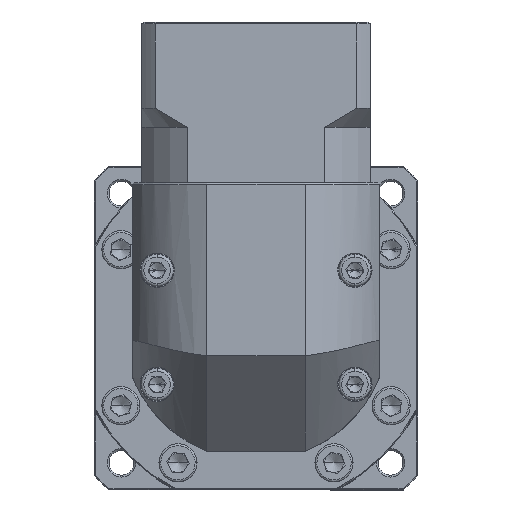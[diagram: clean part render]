
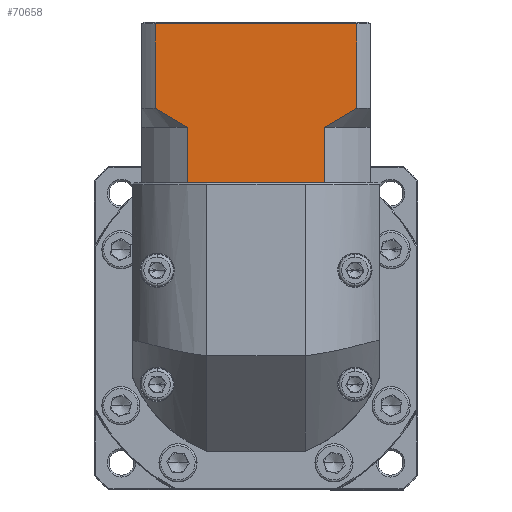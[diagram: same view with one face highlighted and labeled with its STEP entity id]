
A CAD part, top view. The second image highlights one B-rep face of the part: STEP entity #70658.
In plain terms, the highlighted planar face has unit normal (0, 0, 1).
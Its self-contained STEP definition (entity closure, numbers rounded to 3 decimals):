
#2688 = VECTOR ( 'NONE', #62153, 1000. ) ;
#3254 = LINE ( 'NONE', #114574, #130858 ) ;
#3812 = VECTOR ( 'NONE', #94292, 1000. ) ;
#4594 = CARTESIAN_POINT ( 'NONE',  ( -60.089, 73.84, 48.506 ) ) ;
#5754 = VERTEX_POINT ( 'NONE', #60088 ) ;
#9593 = ORIENTED_EDGE ( 'NONE', *, *, #86191, .T. ) ;
#12360 = ORIENTED_EDGE ( 'NONE', *, *, #114933, .T. ) ;
#12599 = EDGE_CURVE ( 'NONE', #123259, #54465, #31920, .T. ) ;
#17896 = VECTOR ( 'NONE', #46583, 1000. ) ;
#21271 = DIRECTION ( 'NONE',  ( 0., 0., -1. ) ) ;
#21354 = LINE ( 'NONE', #32366, #27933 ) ;
#23430 = FACE_OUTER_BOUND ( 'NONE', #88640, .T. ) ;
#25725 = CARTESIAN_POINT ( 'NONE',  ( -115.183, 55.241, 48.506 ) ) ;
#27933 = VECTOR ( 'NONE', #52752, 1000. ) ;
#30408 = CARTESIAN_POINT ( 'NONE',  ( -67.156, 69.741, 48.506 ) ) ;
#30864 = ORIENTED_EDGE ( 'NONE', *, *, #41096, .T. ) ;
#31920 = LINE ( 'NONE', #70703, #3812 ) ;
#32366 = CARTESIAN_POINT ( 'NONE',  ( -115.183, 55.241, 48.506 ) ) ;
#33297 = CARTESIAN_POINT ( 'NONE',  ( -103.211, 69.741, 48.506 ) ) ;
#35352 = EDGE_CURVE ( 'NONE', #48745, #123181, #79871, .T. ) ;
#35568 = CARTESIAN_POINT ( 'NONE',  ( -64.274, 71.292, 48.506 ) ) ;
#39546 = VERTEX_POINT ( 'NONE', #46008 ) ;
#41096 = EDGE_CURVE ( 'NONE', #39546, #116679, #113820, .T. ) ;
#41277 = CARTESIAN_POINT ( 'NONE',  ( -115.183, 96.941, 48.506 ) ) ;
#42198 = VERTEX_POINT ( 'NONE', #44710 ) ;
#44710 = CARTESIAN_POINT ( 'NONE',  ( -68.147, 55.241, 48.506 ) ) ;
#45813 = VERTEX_POINT ( 'NONE', #114262 ) ;
#46008 = CARTESIAN_POINT ( 'NONE',  ( -58.726, 96.941, 48.506 ) ) ;
#46583 = DIRECTION ( 'NONE',  ( 1., 0., 0. ) ) ;
#47119 = DIRECTION ( 'NONE',  ( 0., -1., 0. ) ) ;
#48745 = VERTEX_POINT ( 'NONE', #30408 ) ;
#48971 = ORIENTED_EDGE ( 'NONE', *, *, #105021, .T. ) ;
#50988 = VECTOR ( 'NONE', #72319, 1000. ) ;
#52752 = DIRECTION ( 'NONE',  ( 1., 0., 0. ) ) ;
#54465 = VERTEX_POINT ( 'NONE', #88606 ) ;
#54548 = DIRECTION ( 'NONE',  ( 0., 1., 0. ) ) ;
#55004 = PLANE ( 'NONE',  #74904 ) ;
#56707 = VECTOR ( 'NONE', #131931, 1000. ) ;
#59438 = ORIENTED_EDGE ( 'NONE', *, *, #35352, .T. ) ;
#59503 = B_SPLINE_CURVE_WITH_KNOTS ( 'NONE', 3,
 ( #126077, #126519, #96799, #107902, #119023, #33297 ),
 .UNSPECIFIED., .F., .F.,
 ( 4, 2, 4 ),
 ( 0.052, 0.057, 0.062 ),
 .UNSPECIFIED. ) ;
#60088 = CARTESIAN_POINT ( 'NONE',  ( -67.156, 55.241, 48.506 ) ) ;
#62153 = DIRECTION ( 'NONE',  ( -1., 0., 0. ) ) ;
#62502 = CARTESIAN_POINT ( 'NONE',  ( -111.641, 96.941, 48.506 ) ) ;
#64519 = EDGE_CURVE ( 'NONE', #48745, #5754, #104897, .T. ) ;
#67536 = ORIENTED_EDGE ( 'NONE', *, *, #103717, .T. ) ;
#70658 = ADVANCED_FACE ( 'NONE', ( #23430 ), #55004, .F. ) ;
#70703 = CARTESIAN_POINT ( 'NONE',  ( -103.211, 69.741, 48.506 ) ) ;
#72319 = DIRECTION ( 'NONE',  ( 1., 0., 0. ) ) ;
#74904 = AXIS2_PLACEMENT_3D ( 'NONE', #107399, #21271, #54548 ) ;
#78614 = CARTESIAN_POINT ( 'NONE',  ( -61.469, 72.966, 48.506 ) ) ;
#79104 = LINE ( 'NONE', #135840, #50988 ) ;
#79871 = B_SPLINE_CURVE_WITH_KNOTS ( 'NONE', 3,
 ( #119922, #88405, #35568, #78614, #4594, #90684 ),
 .UNSPECIFIED., .F., .F.,
 ( 4, 2, 4 ),
 ( 0.1, 0.104, 0.109 ),
 .UNSPECIFIED. ) ;
#85763 = VECTOR ( 'NONE', #47119, 1000. ) ;
#86191 = EDGE_CURVE ( 'NONE', #45813, #54465, #59503, .T. ) ;
#88405 = CARTESIAN_POINT ( 'NONE',  ( -65.699, 70.491, 48.506 ) ) ;
#88606 = CARTESIAN_POINT ( 'NONE',  ( -103.211, 69.741, 48.506 ) ) ;
#88640 = EDGE_LOOP ( 'NONE', ( #119451, #30864, #101551, #9593, #124314, #67536, #48971, #12360, #124444, #59438 ) ) ;
#89321 = CARTESIAN_POINT ( 'NONE',  ( -58.726, 69.741, 48.506 ) ) ;
#90684 = CARTESIAN_POINT ( 'NONE',  ( -58.726, 74.741, 48.506 ) ) ;
#92258 = EDGE_CURVE ( 'NONE', #39546, #123181, #118835, .T. ) ;
#94292 = DIRECTION ( 'NONE',  ( 0., 1., 0. ) ) ;
#96799 = CARTESIAN_POINT ( 'NONE',  ( -108.902, 72.968, 48.506 ) ) ;
#101551 = ORIENTED_EDGE ( 'NONE', *, *, #110278, .F. ) ;
#101952 = VERTEX_POINT ( 'NONE', #132276 ) ;
#103717 = EDGE_CURVE ( 'NONE', #123259, #101952, #21354, .T. ) ;
#104897 = LINE ( 'NONE', #121246, #56707 ) ;
#105021 = EDGE_CURVE ( 'NONE', #101952, #42198, #79104, .T. ) ;
#107399 = CARTESIAN_POINT ( 'NONE',  ( -115.183, 97.441, 48.506 ) ) ;
#107902 = CARTESIAN_POINT ( 'NONE',  ( -106.095, 71.292, 48.506 ) ) ;
#110278 = EDGE_CURVE ( 'NONE', #45813, #116679, #3254, .T. ) ;
#113820 = LINE ( 'NONE', #41277, #2688 ) ;
#114262 = CARTESIAN_POINT ( 'NONE',  ( -111.641, 74.741, 48.506 ) ) ;
#114574 = CARTESIAN_POINT ( 'NONE',  ( -111.641, 69.741, 48.506 ) ) ;
#114933 = EDGE_CURVE ( 'NONE', #42198, #5754, #137328, .T. ) ;
#116679 = VERTEX_POINT ( 'NONE', #62502 ) ;
#117245 = CARTESIAN_POINT ( 'NONE',  ( -58.726, 74.741, 48.506 ) ) ;
#118835 = LINE ( 'NONE', #89321, #85763 ) ;
#119023 = CARTESIAN_POINT ( 'NONE',  ( -104.663, 70.489, 48.506 ) ) ;
#119451 = ORIENTED_EDGE ( 'NONE', *, *, #92258, .F. ) ;
#119922 = CARTESIAN_POINT ( 'NONE',  ( -67.156, 69.741, 48.506 ) ) ;
#121246 = CARTESIAN_POINT ( 'NONE',  ( -67.156, 69.741, 48.506 ) ) ;
#123181 = VERTEX_POINT ( 'NONE', #117245 ) ;
#123259 = VERTEX_POINT ( 'NONE', #129744 ) ;
#124314 = ORIENTED_EDGE ( 'NONE', *, *, #12599, .F. ) ;
#124444 = ORIENTED_EDGE ( 'NONE', *, *, #64519, .F. ) ;
#126077 = CARTESIAN_POINT ( 'NONE',  ( -111.641, 74.741, 48.506 ) ) ;
#126519 = CARTESIAN_POINT ( 'NONE',  ( -110.281, 73.841, 48.506 ) ) ;
#126597 = DIRECTION ( 'NONE',  ( 0., 1., 0. ) ) ;
#129744 = CARTESIAN_POINT ( 'NONE',  ( -103.211, 55.241, 48.506 ) ) ;
#130858 = VECTOR ( 'NONE', #126597, 1000. ) ;
#131931 = DIRECTION ( 'NONE',  ( 0., -1., 0. ) ) ;
#132276 = CARTESIAN_POINT ( 'NONE',  ( -102.22, 55.241, 48.506 ) ) ;
#135840 = CARTESIAN_POINT ( 'NONE',  ( -115.183, 55.241, 48.506 ) ) ;
#137328 = LINE ( 'NONE', #25725, #17896 ) ;
